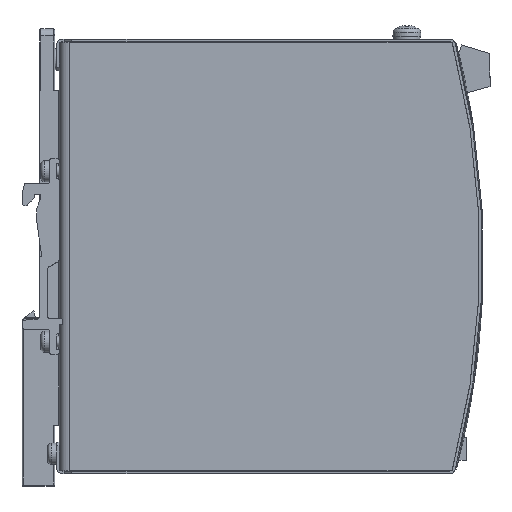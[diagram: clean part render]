
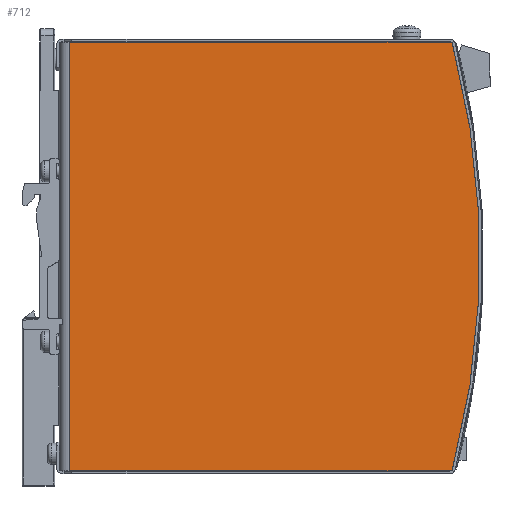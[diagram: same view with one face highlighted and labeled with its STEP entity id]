
A CAD part, front view. The second image highlights one B-rep face of the part: STEP entity #712.
In plain terms, the highlighted planar face has unit normal (0, -1, 0).
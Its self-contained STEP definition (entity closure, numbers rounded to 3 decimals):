
#348=CARTESIAN_POINT('',(112.079,-18.,-61.15));
#349=VERTEX_POINT('',#348);
#350=CARTESIAN_POINT('',(112.079,-18.,61.15));
#351=VERTEX_POINT('',#350);
#352=CARTESIAN_POINT('',(-120.,-18.,0.));
#353=DIRECTION('',(0.0,-1.,0.0));
#354=DIRECTION('',(-0.967,0.0,-0.255));
#355=AXIS2_PLACEMENT_3D('',#352,#353,#354);
#356=CIRCLE('',#355,240.0);
#357=EDGE_CURVE('',#349,#351,#356,.T.);
#529=CARTESIAN_POINT('',(3.,-18.0,-61.15));
#530=VERTEX_POINT('',#529);
#531=CARTESIAN_POINT('',(112.079,-18.,-61.15));
#532=DIRECTION('',(-1.0,0.0,0.0));
#533=VECTOR('',#532,109.079);
#534=LINE('',#531,#533);
#535=EDGE_CURVE('',#349,#530,#534,.T.);
#669=CARTESIAN_POINT('',(3.,-18.0,61.15));
#670=VERTEX_POINT('',#669);
#671=CARTESIAN_POINT('',(3.,-18.0,61.15));
#672=DIRECTION('',(0.0,0.0,-1.0));
#673=VECTOR('',#672,122.3);
#674=LINE('',#671,#673);
#675=EDGE_CURVE('',#670,#530,#674,.T.);
#696=CARTESIAN_POINT('',(130.0,-18.,-61.15));
#697=DIRECTION('',(0.0,-1.0,0.0));
#698=DIRECTION('',(0.0,0.0,-1.0));
#699=AXIS2_PLACEMENT_3D('',#696,#697,#698);
#700=PLANE('',#699);
#701=ORIENTED_EDGE('',*,*,#357,.T.);
#702=CARTESIAN_POINT('',(112.079,-18.,61.15));
#703=DIRECTION('',(-1.0,0.0,0.0));
#704=VECTOR('',#703,109.079);
#705=LINE('',#702,#704);
#706=EDGE_CURVE('',#351,#670,#705,.T.);
#707=ORIENTED_EDGE('',*,*,#706,.T.);
#708=ORIENTED_EDGE('',*,*,#675,.T.);
#709=ORIENTED_EDGE('',*,*,#535,.F.);
#710=EDGE_LOOP('',(#701,#707,#708,#709));
#711=FACE_OUTER_BOUND('',#710,.T.);
#712=ADVANCED_FACE('',(#711),#700,.T.);
